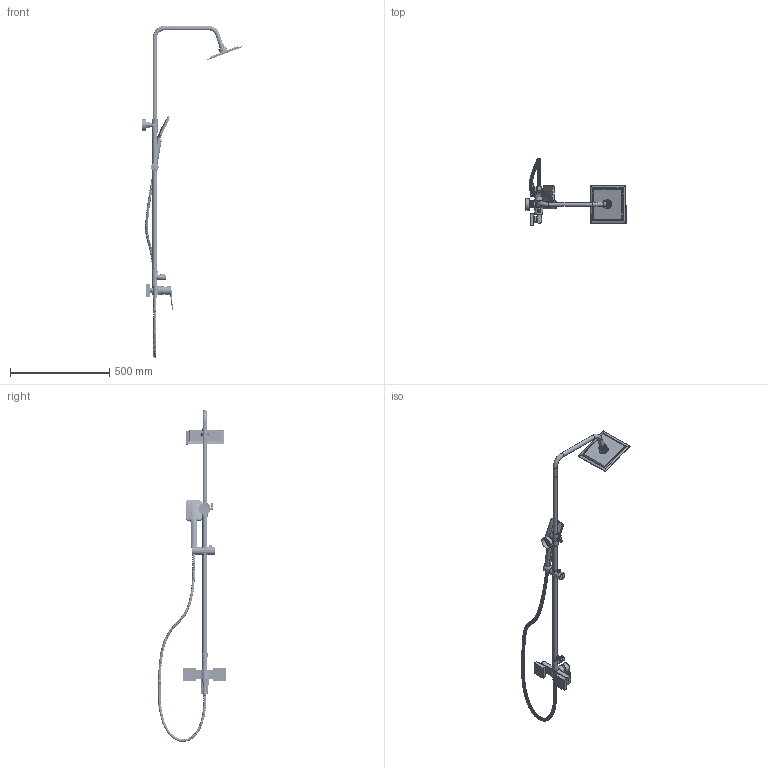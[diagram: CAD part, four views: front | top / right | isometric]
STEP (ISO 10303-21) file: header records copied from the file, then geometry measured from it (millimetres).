
FILE_DESCRIPTION(/* description */ (''),/* implementation_level */ '2;1');
FILE_NAME(/* name */ '两功能淋浴.stp',/* time_stamp */ '2024-06-17T21:19:12+08:00',/* author */ (''),/* organization */ (''),/* preprocessor_version */ 'ST-DEVELOPER v16.7',/* originating_system */ 'SIEMENS PLM Software NX 12.0',/* authorisation */ '');
FILE_SCHEMA (('AUTOMOTIVE_DESIGN { 1 0 10303 214 3 1 1 1 }'));
Products named in the file (1): Admi0E4804A5856h
Bounding box: 505.22 x 342 x 1673.05 mm (x, y, z)
Volume: 2080809.2 mm3; surface area: 475887 mm2
Topology: 80 solids, 80 shells, 3377 faces, 7915 edges, 5195 vertices
Faces by surface type: plane 1406, cylinder 1251, torus 511, bspline 109, cone 81, sphere 19
Full cylindrical faces by diameter (mm): 1 x46, 3.372 x1, 5 x10, 5.157 x1, 7 x1, 8 x1, 8.9 x1, 9 x2, 10.3 x2, 12 x20, 14 x143, 14.5 x2, 15 x2, 15.501 x1, 15.6 x2, 16 x2, 17.2 x1, 18.5 x1, 19.1 x1, 20 x3, 20.5 x2, 20.6 x1, 21 x2, 21.5 x5, 21.9 x1, 22.5 x1, 23 x3, 24 x6, 24.5 x2, 25.8 x1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
Entity records: 110293 total; most frequent: CARTESIAN_POINT 36418, DIRECTION 15487, ORIENTED_EDGE 13432, EDGE_CURVE 6716, AXIS2_PLACEMENT_3D 6259, VERTEX_POINT 4800, EDGE_LOOP 4794, ADVANCED_FACE 3377
